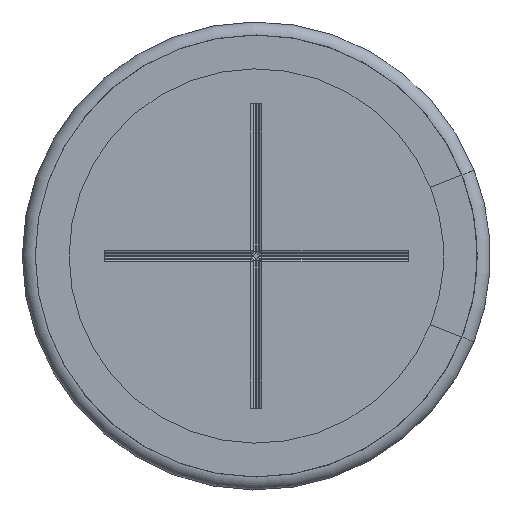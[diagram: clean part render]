
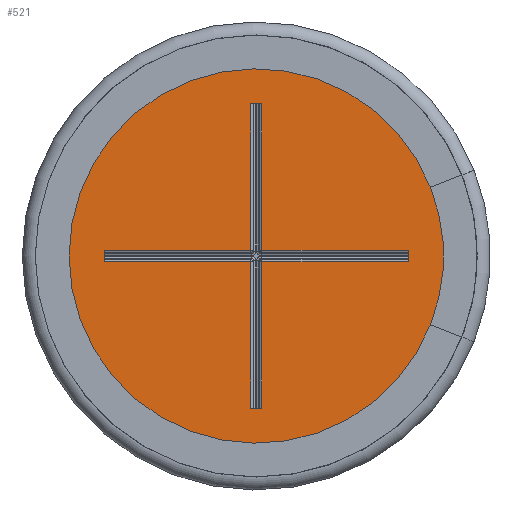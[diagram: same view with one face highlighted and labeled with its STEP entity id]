
A CAD part, front view. The second image highlights one B-rep face of the part: STEP entity #521.
In plain terms, the highlighted planar face has unit normal (0, -1, 0).
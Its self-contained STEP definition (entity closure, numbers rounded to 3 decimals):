
#100=FACE_BOUND('',#824,.T.);
#101=FACE_BOUND('',#825,.T.);
#472=PLANE('',#2572);
#521=ADVANCED_FACE('',(#100,#101),#472,.T.);
#824=EDGE_LOOP('',(#1318));
#825=EDGE_LOOP('',(#1319,#1320,#1321,#1322,#1323,#1324,#1325,#1326,#1327,
#1328,#1329,#1330));
#968=LINE('',#3692,#1092);
#969=LINE('',#3695,#1093);
#970=LINE('',#3697,#1094);
#971=LINE('',#3699,#1095);
#972=LINE('',#3701,#1096);
#973=LINE('',#3703,#1097);
#974=LINE('',#3705,#1098);
#975=LINE('',#3707,#1099);
#976=LINE('',#3709,#1100);
#977=LINE('',#3711,#1101);
#978=LINE('',#3713,#1102);
#979=LINE('',#3715,#1103);
#1092=VECTOR('',#2967,1.);
#1093=VECTOR('',#2968,1.);
#1094=VECTOR('',#2969,1.);
#1095=VECTOR('',#2970,1.);
#1096=VECTOR('',#2971,1.);
#1097=VECTOR('',#2972,1.);
#1098=VECTOR('',#2973,1.);
#1099=VECTOR('',#2974,1.);
#1100=VECTOR('',#2975,1.);
#1101=VECTOR('',#2976,1.);
#1102=VECTOR('',#2977,1.);
#1103=VECTOR('',#2978,1.);
#1318=ORIENTED_EDGE('',*,*,#2082,.T.);
#1319=ORIENTED_EDGE('',*,*,#2083,.F.);
#1320=ORIENTED_EDGE('',*,*,#2084,.T.);
#1321=ORIENTED_EDGE('',*,*,#2085,.T.);
#1322=ORIENTED_EDGE('',*,*,#2086,.F.);
#1323=ORIENTED_EDGE('',*,*,#2087,.T.);
#1324=ORIENTED_EDGE('',*,*,#2088,.T.);
#1325=ORIENTED_EDGE('',*,*,#2089,.T.);
#1326=ORIENTED_EDGE('',*,*,#2090,.T.);
#1327=ORIENTED_EDGE('',*,*,#2091,.T.);
#1328=ORIENTED_EDGE('',*,*,#2092,.T.);
#1329=ORIENTED_EDGE('',*,*,#2093,.T.);
#1330=ORIENTED_EDGE('',*,*,#2094,.T.);
#1862=VERTEX_POINT('',#3691);
#1863=VERTEX_POINT('',#3693);
#1864=VERTEX_POINT('',#3694);
#1865=VERTEX_POINT('',#3696);
#1866=VERTEX_POINT('',#3698);
#1867=VERTEX_POINT('',#3700);
#1868=VERTEX_POINT('',#3702);
#1869=VERTEX_POINT('',#3704);
#1870=VERTEX_POINT('',#3706);
#1871=VERTEX_POINT('',#3708);
#1872=VERTEX_POINT('',#3710);
#1873=VERTEX_POINT('',#3712);
#1874=VERTEX_POINT('',#3714);
#2082=EDGE_CURVE('',#1862,#1862,#2374,.T.);
#2083=EDGE_CURVE('',#1863,#1864,#968,.T.);
#2084=EDGE_CURVE('',#1863,#1865,#969,.T.);
#2085=EDGE_CURVE('',#1865,#1866,#970,.T.);
#2086=EDGE_CURVE('',#1867,#1866,#971,.T.);
#2087=EDGE_CURVE('',#1867,#1868,#972,.T.);
#2088=EDGE_CURVE('',#1868,#1869,#973,.T.);
#2089=EDGE_CURVE('',#1869,#1870,#974,.T.);
#2090=EDGE_CURVE('',#1870,#1871,#975,.T.);
#2091=EDGE_CURVE('',#1871,#1872,#976,.T.);
#2092=EDGE_CURVE('',#1872,#1873,#977,.T.);
#2093=EDGE_CURVE('',#1873,#1874,#978,.T.);
#2094=EDGE_CURVE('',#1874,#1864,#979,.T.);
#2374=CIRCLE('',#2571,8.5);
#2571=AXIS2_PLACEMENT_3D('',#3690,#2965,#2966);
#2572=AXIS2_PLACEMENT_3D('',#3716,#2979,#2980);
#2965=DIRECTION('',(0.,-1.,0.));
#2966=DIRECTION('',(0.,0.,-1.));
#2967=DIRECTION('',(-1.,0.,0.));
#2968=DIRECTION('',(0.,0.,-1.));
#2969=DIRECTION('',(1.,0.,0.));
#2970=DIRECTION('',(0.,0.,1.));
#2971=DIRECTION('',(-1.,0.,0.));
#2972=DIRECTION('',(0.,0.,-1.));
#2973=DIRECTION('',(-1.,0.,0.));
#2974=DIRECTION('',(0.,0.,1.));
#2975=DIRECTION('',(-1.,0.,0.));
#2976=DIRECTION('',(0.,0.,1.));
#2977=DIRECTION('',(1.,0.,0.));
#2978=DIRECTION('',(0.,0.,1.));
#2979=DIRECTION('',(0.,-1.,0.));
#2980=DIRECTION('',(0.,0.,-1.));
#3690=CARTESIAN_POINT('',(0.,0.1,0.));
#3691=CARTESIAN_POINT('',(0.,0.1,-8.5));
#3692=CARTESIAN_POINT('',(0.15,0.1,5.85));
#3693=CARTESIAN_POINT('',(0.212,0.1,5.85));
#3694=CARTESIAN_POINT('',(-0.212,0.1,5.85));
#3695=CARTESIAN_POINT('',(0.212,0.1,0.15));
#3696=CARTESIAN_POINT('',(0.212,0.1,0.212));
#3697=CARTESIAN_POINT('',(5.85,0.1,0.212));
#3698=CARTESIAN_POINT('',(5.85,0.1,0.212));
#3699=CARTESIAN_POINT('',(5.85,0.1,-0.15));
#3700=CARTESIAN_POINT('',(5.85,0.1,-0.212));
#3701=CARTESIAN_POINT('',(0.15,0.1,-0.212));
#3702=CARTESIAN_POINT('',(0.212,0.1,-0.212));
#3703=CARTESIAN_POINT('',(0.212,0.1,-5.85));
#3704=CARTESIAN_POINT('',(0.212,0.1,-5.85));
#3705=CARTESIAN_POINT('',(0.15,0.1,-5.85));
#3706=CARTESIAN_POINT('',(-0.212,0.1,-5.85));
#3707=CARTESIAN_POINT('',(-0.212,0.1,-0.15));
#3708=CARTESIAN_POINT('',(-0.212,0.1,-0.212));
#3709=CARTESIAN_POINT('',(-5.85,0.1,-0.212));
#3710=CARTESIAN_POINT('',(-5.85,0.1,-0.212));
#3711=CARTESIAN_POINT('',(-5.85,0.1,-0.15));
#3712=CARTESIAN_POINT('',(-5.85,0.1,0.212));
#3713=CARTESIAN_POINT('',(-0.15,0.1,0.212));
#3714=CARTESIAN_POINT('',(-0.212,0.1,0.212));
#3715=CARTESIAN_POINT('',(-0.212,0.1,5.85));
#3716=CARTESIAN_POINT('',(0.,0.1,0.));
